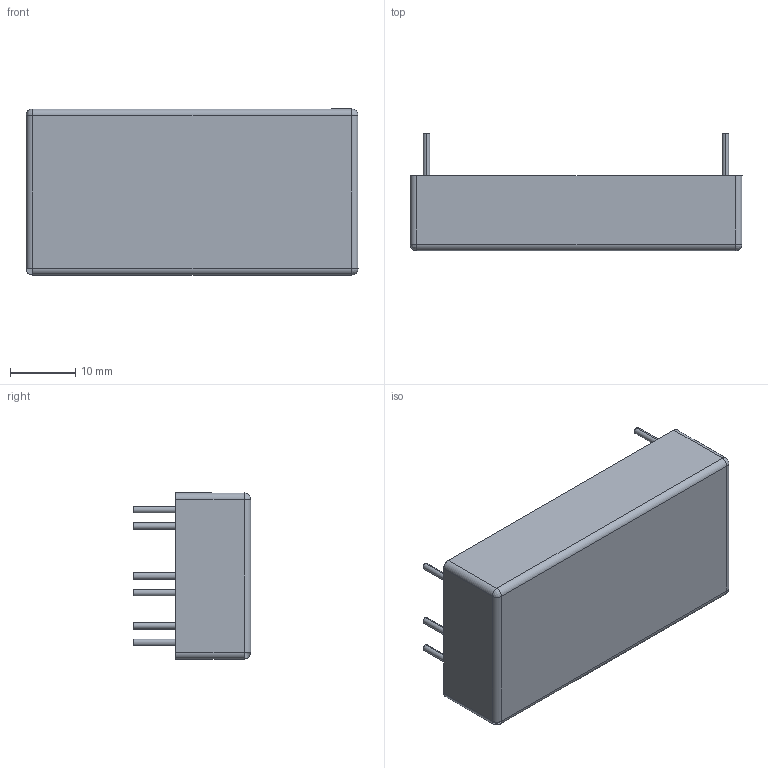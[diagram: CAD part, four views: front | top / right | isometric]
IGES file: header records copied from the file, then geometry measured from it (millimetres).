
Start section: SolidWorks IGES file using analytic representation for surfaces
Global section: file name: C:\Users\ksmith.XPNA\Desktop\JCK50\JCK50.IGS; native system: SolidWorks 2017; preprocessor: SolidWorks 2017; author: ksmith; date: 170428.092050; units: inch
Bounding box: 50.8 x 18 x 25.4 mm (x, y, z)
Surface area: 4372.3 mm2 (no closed solid volume)
Topology: 0 solids, 0 shells, 40 faces, 432 edges, 420 vertices
Faces by surface type: revolution 28, bspline 12
